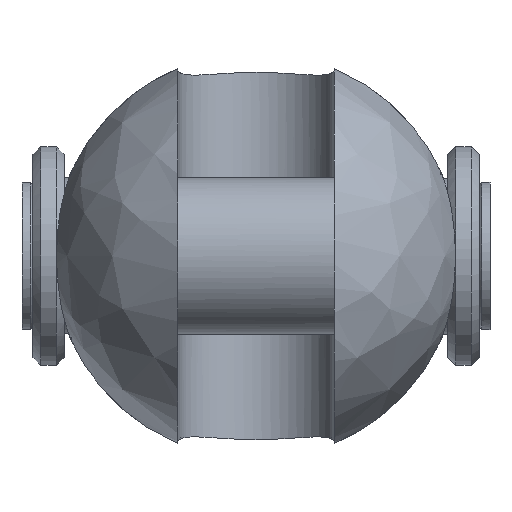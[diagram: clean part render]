
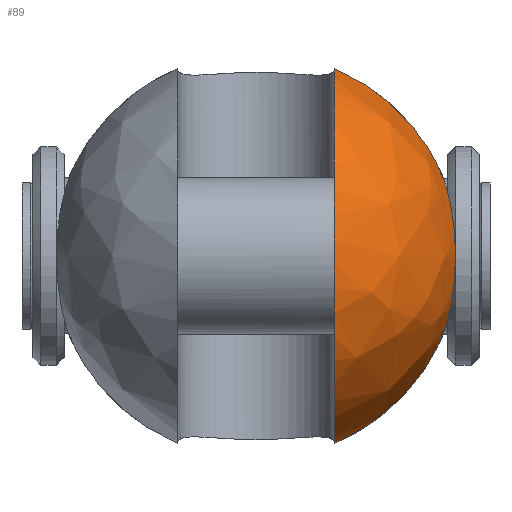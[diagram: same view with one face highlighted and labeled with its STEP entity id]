
A CAD part, left-side view. The second image highlights one B-rep face of the part: STEP entity #89.
In plain terms, the highlighted free-form (B-spline) face has degree [2, 2] with [9, 5] control points.
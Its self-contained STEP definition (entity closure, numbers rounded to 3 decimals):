
#89=ADVANCED_FACE('',(#164),#1301,.T.);
#164=FACE_OUTER_BOUND('',#249,.T.);
#249=EDGE_LOOP('',(#579,#580,#581,#582,#583,#584));
#579=ORIENTED_EDGE('',*,*,#809,.T.);
#580=ORIENTED_EDGE('',*,*,#831,.F.);
#581=ORIENTED_EDGE('',*,*,#847,.T.);
#582=ORIENTED_EDGE('',*,*,#849,.T.);
#583=ORIENTED_EDGE('',*,*,#848,.T.);
#584=ORIENTED_EDGE('',*,*,#825,.F.);
#809=EDGE_CURVE('',#1188,#1187,#1038,.T.);
#825=EDGE_CURVE('',#1188,#1200,#1048,.T.);
#831=EDGE_CURVE('',#1205,#1187,#1049,.T.);
#847=EDGE_CURVE('',#1205,#1212,#1059,.T.);
#848=EDGE_CURVE('',#1213,#1200,#1060,.T.);
#849=EDGE_CURVE('',#1212,#1213,#957,.T.);
#957=B_SPLINE_CURVE_WITH_KNOTS('',3,(#3073,#3074,#3075,#3076,#3077,#3078,
#3079,#3080,#3081,#3082,#3083,#3084,#3085,#3086),.UNSPECIFIED.,.F.,.F.,
(4,2,2,2,2,2,4),(-12.357,-11.17,-8.674,
-6.178,-3.683,-1.187,0.),.UNSPECIFIED.);
#1038=(
BOUNDED_CURVE()
B_SPLINE_CURVE(2,(#2906,#2907,#2908,#2909,#2910),.UNSPECIFIED.,.F.,.F.)
B_SPLINE_CURVE_WITH_KNOTS((3,2,3),(-37.699,-18.85,
0.),.UNSPECIFIED.)
CURVE()
GEOMETRIC_REPRESENTATION_ITEM()
RATIONAL_B_SPLINE_CURVE((1.,0.707,1.,0.707,1.))
REPRESENTATION_ITEM('')
);
#1048=(
BOUNDED_CURVE()
B_SPLINE_CURVE(2,(#2984,#2985,#2986),.UNSPECIFIED.,.F.,.F.)
B_SPLINE_CURVE_WITH_KNOTS((3,3),(0.,9.609),.UNSPECIFIED.)
CURVE()
GEOMETRIC_REPRESENTATION_ITEM()
RATIONAL_B_SPLINE_CURVE((1.,0.932,1.))
REPRESENTATION_ITEM('')
);
#1049=(
BOUNDED_CURVE()
B_SPLINE_CURVE(2,(#3005,#3006,#3007),.UNSPECIFIED.,.F.,.F.)
B_SPLINE_CURVE_WITH_KNOTS((3,3),(0.,9.609),.UNSPECIFIED.)
CURVE()
GEOMETRIC_REPRESENTATION_ITEM()
RATIONAL_B_SPLINE_CURVE((1.,0.932,1.))
REPRESENTATION_ITEM('')
);
#1059=(
BOUNDED_CURVE()
B_SPLINE_CURVE(2,(#3067,#3068,#3069),.UNSPECIFIED.,.F.,.F.)
B_SPLINE_CURVE_WITH_KNOTS((3,3),(-0.318,0.),.UNSPECIFIED.)
CURVE()
GEOMETRIC_REPRESENTATION_ITEM()
RATIONAL_B_SPLINE_CURVE((1.,1.,1.))
REPRESENTATION_ITEM('')
);
#1060=(
BOUNDED_CURVE()
B_SPLINE_CURVE(2,(#3070,#3071,#3072),.UNSPECIFIED.,.F.,.F.)
B_SPLINE_CURVE_WITH_KNOTS((3,3),(-0.318,0.),.UNSPECIFIED.)
CURVE()
GEOMETRIC_REPRESENTATION_ITEM()
RATIONAL_B_SPLINE_CURVE((1.,1.,1.))
REPRESENTATION_ITEM('')
);
#1187=VERTEX_POINT('',#2832);
#1188=VERTEX_POINT('',#2833);
#1200=VERTEX_POINT('',#2845);
#1205=VERTEX_POINT('',#2850);
#1212=VERTEX_POINT('',#2857);
#1213=VERTEX_POINT('',#2858);
#1301=(
BOUNDED_SURFACE()
B_SPLINE_SURFACE(2,2,((#2440,#2441,#2442,#2443,#2444),(#2445,#2446,#2447,
#2448,#2449),(#2450,#2451,#2452,#2453,#2454),(#2455,#2456,#2457,#2458,#2459),
(#2460,#2461,#2462,#2463,#2464),(#2465,#2466,#2467,#2468,#2469),(#2470,
#2471,#2472,#2473,#2474),(#2475,#2476,#2477,#2478,#2479),(#2480,#2481,#2482,
#2483,#2484)),.UNSPECIFIED.,.T.,.F.,.F.)
B_SPLINE_SURFACE_WITH_KNOTS((3,2,2,2,3),(3,2,3),(0.,1.571,3.142,
4.712,6.283),(-1.571,0.,1.571),
 .UNSPECIFIED.)
GEOMETRIC_REPRESENTATION_ITEM()
RATIONAL_B_SPLINE_SURFACE(((1.,0.707,1.,0.707,1.),
(0.707,0.5,0.707,0.5,0.707),(1.,0.707,
1.,0.707,1.),(0.707,0.5,0.707,0.5,0.707),
(1.,0.707,1.,0.707,1.),(0.707,0.5,0.707,
0.5,0.707),(1.,0.707,1.,0.707,1.),(0.707,
0.5,0.707,0.5,0.707),(1.,0.707,1.,0.707,
1.)))
REPRESENTATION_ITEM('')
SURFACE()
);
#2440=CARTESIAN_POINT('',(-18.5,0.,0.));
#2441=CARTESIAN_POINT('',(-18.5,13.,0.));
#2442=CARTESIAN_POINT('',(-5.5,13.,0.));
#2443=CARTESIAN_POINT('',(7.5,13.,0.));
#2444=CARTESIAN_POINT('',(7.5,0.,0.));
#2445=CARTESIAN_POINT('',(-18.5,0.,0.));
#2446=CARTESIAN_POINT('',(-18.5,13.,13.));
#2447=CARTESIAN_POINT('',(-5.5,13.,13.));
#2448=CARTESIAN_POINT('',(7.5,13.,13.));
#2449=CARTESIAN_POINT('',(7.5,0.,0.));
#2450=CARTESIAN_POINT('',(-18.5,0.,0.));
#2451=CARTESIAN_POINT('',(-18.5,0.,13.));
#2452=CARTESIAN_POINT('',(-5.5,0.,13.));
#2453=CARTESIAN_POINT('',(7.5,0.,13.));
#2454=CARTESIAN_POINT('',(7.5,0.,0.));
#2455=CARTESIAN_POINT('',(-18.5,0.,0.));
#2456=CARTESIAN_POINT('',(-18.5,-13.,13.));
#2457=CARTESIAN_POINT('',(-5.5,-13.,13.));
#2458=CARTESIAN_POINT('',(7.5,-13.,13.));
#2459=CARTESIAN_POINT('',(7.5,0.,0.));
#2460=CARTESIAN_POINT('',(-18.5,0.,0.));
#2461=CARTESIAN_POINT('',(-18.5,-13.,0.));
#2462=CARTESIAN_POINT('',(-5.5,-13.,0.));
#2463=CARTESIAN_POINT('',(7.5,-13.,0.));
#2464=CARTESIAN_POINT('',(7.5,0.,0.));
#2465=CARTESIAN_POINT('',(-18.5,0.,0.));
#2466=CARTESIAN_POINT('',(-18.5,-13.,-13.));
#2467=CARTESIAN_POINT('',(-5.5,-13.,-13.));
#2468=CARTESIAN_POINT('',(7.5,-13.,-13.));
#2469=CARTESIAN_POINT('',(7.5,0.,0.));
#2470=CARTESIAN_POINT('',(-18.5,0.,0.));
#2471=CARTESIAN_POINT('',(-18.5,0.,-13.));
#2472=CARTESIAN_POINT('',(-5.5,0.,-13.));
#2473=CARTESIAN_POINT('',(7.5,0.,-13.));
#2474=CARTESIAN_POINT('',(7.5,0.,0.));
#2475=CARTESIAN_POINT('',(-18.5,0.,0.));
#2476=CARTESIAN_POINT('',(-18.5,13.,-13.));
#2477=CARTESIAN_POINT('',(-5.5,13.,-13.));
#2478=CARTESIAN_POINT('',(7.5,13.,-13.));
#2479=CARTESIAN_POINT('',(7.5,0.,0.));
#2480=CARTESIAN_POINT('',(-18.5,0.,0.));
#2481=CARTESIAN_POINT('',(-18.5,13.,0.));
#2482=CARTESIAN_POINT('',(-5.5,13.,0.));
#2483=CARTESIAN_POINT('',(7.5,13.,0.));
#2484=CARTESIAN_POINT('',(7.5,0.,0.));
#2832=CARTESIAN_POINT('',(-5.5,-5.,-12.));
#2833=CARTESIAN_POINT('',(-5.5,-5.,12.));
#2845=CARTESIAN_POINT('',(-5.5,-11.779,5.5));
#2850=CARTESIAN_POINT('',(-5.5,-11.779,-5.5));
#2857=CARTESIAN_POINT('',(-5.818,-11.779,-5.491));
#2858=CARTESIAN_POINT('',(-5.818,-11.779,5.491));
#2906=CARTESIAN_POINT('',(-5.5,-5.,12.));
#2907=CARTESIAN_POINT('',(-17.5,-5.,12.));
#2908=CARTESIAN_POINT('',(-17.5,-5.,0.));
#2909=CARTESIAN_POINT('',(-17.5,-5.,-12.));
#2910=CARTESIAN_POINT('',(-5.5,-5.,-12.));
#2984=CARTESIAN_POINT('',(-5.5,-5.,12.));
#2985=CARTESIAN_POINT('',(-5.5,-9.649,10.063));
#2986=CARTESIAN_POINT('',(-5.5,-11.779,5.5));
#3005=CARTESIAN_POINT('',(-5.5,-11.779,-5.5));
#3006=CARTESIAN_POINT('',(-5.5,-9.649,-10.063));
#3007=CARTESIAN_POINT('',(-5.5,-5.,-12.));
#3067=CARTESIAN_POINT('',(-5.5,-11.779,-5.5));
#3068=CARTESIAN_POINT('',(-5.659,-11.779,-5.5));
#3069=CARTESIAN_POINT('',(-5.818,-11.779,-5.491));
#3070=CARTESIAN_POINT('',(-5.818,-11.779,5.491));
#3071=CARTESIAN_POINT('',(-5.659,-11.779,5.5));
#3072=CARTESIAN_POINT('',(-5.5,-11.779,5.5));
#3073=CARTESIAN_POINT('',(-5.818,-11.779,-5.491));
#3074=CARTESIAN_POINT('',(-6.077,-11.9,-5.217));
#3075=CARTESIAN_POINT('',(-6.314,-12.009,-4.926));
#3076=CARTESIAN_POINT('',(-6.968,-12.306,-4.004));
#3077=CARTESIAN_POINT('',(-7.358,-12.478,-3.251));
#3078=CARTESIAN_POINT('',(-7.874,-12.704,-1.645));
#3079=CARTESIAN_POINT('',(-8.,-12.757,-0.793));
#3080=CARTESIAN_POINT('',(-8.,-12.757,0.793));
#3081=CARTESIAN_POINT('',(-7.874,-12.704,1.645));
#3082=CARTESIAN_POINT('',(-7.358,-12.478,3.251));
#3083=CARTESIAN_POINT('',(-6.968,-12.306,4.004));
#3084=CARTESIAN_POINT('',(-6.314,-12.009,4.926));
#3085=CARTESIAN_POINT('',(-6.077,-11.9,5.217));
#3086=CARTESIAN_POINT('',(-5.818,-11.779,5.491));
